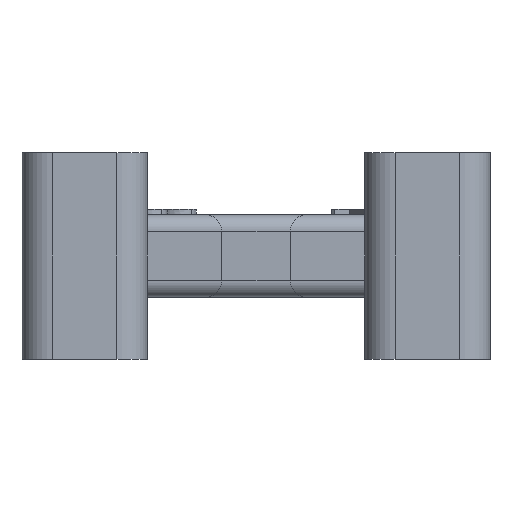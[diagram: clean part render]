
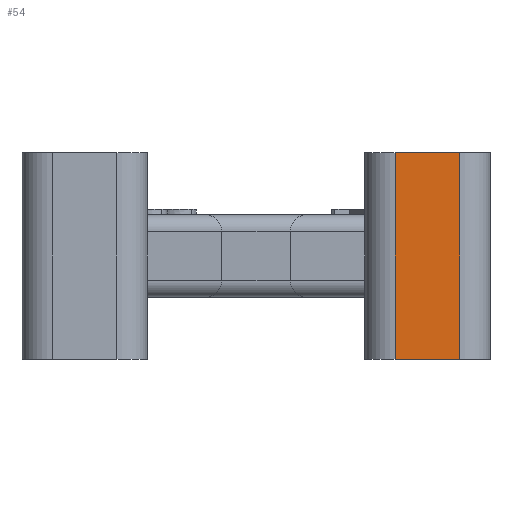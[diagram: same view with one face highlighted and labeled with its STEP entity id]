
A CAD part, front view. The second image highlights one B-rep face of the part: STEP entity #54.
In plain terms, the highlighted planar face has unit normal (0, -1, 0).
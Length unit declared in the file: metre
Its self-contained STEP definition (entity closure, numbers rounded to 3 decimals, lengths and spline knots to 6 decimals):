
#15=CARTESIAN_POINT('',(-0.001576,-0.02168,0.0482));
#16=DIRECTION('',(0.,1.,0.));
#17=DIRECTION('',(0.,0.,1.));
#18=AXIS2_PLACEMENT_3D('',#15,#16,#17);
#19=PLANE('',#18);
#20=CARTESIAN_POINT('',(0.006474,-0.02168,0.04295));
#21=DIRECTION('',(1.,0.,0.));
#22=VECTOR('',#21,1.);
#23=LINE('',#20,#22);
#24=CARTESIAN_POINT('',(0.003474,-0.02168,0.04295));
#25=VERTEX_POINT('',#24);
#26=CARTESIAN_POINT('',(0.005824,-0.02168,0.04295));
#27=VERTEX_POINT('',#26);
#28=EDGE_CURVE('',#25,#27,#23,.T.);
#29=ORIENTED_EDGE('',*,*,#28,.T.);
#30=CARTESIAN_POINT('',(0.005824,-0.02168,0.05045));
#31=DIRECTION('',(0.,0.,-1.));
#32=VECTOR('',#31,1.);
#33=LINE('',#30,#32);
#34=CARTESIAN_POINT('',(0.005824,-0.02168,0.05045));
#35=VERTEX_POINT('',#34);
#36=EDGE_CURVE('',#35,#27,#33,.T.);
#37=ORIENTED_EDGE('',*,*,#36,.F.);
#38=CARTESIAN_POINT('',(0.006474,-0.02168,0.05045));
#39=DIRECTION('',(1.,0.,0.));
#40=VECTOR('',#39,1.);
#41=LINE('',#38,#40);
#42=CARTESIAN_POINT('',(0.003474,-0.02168,0.05045));
#43=VERTEX_POINT('',#42);
#44=EDGE_CURVE('',#43,#35,#41,.T.);
#45=ORIENTED_EDGE('',*,*,#44,.F.);
#46=CARTESIAN_POINT('',(0.003474,-0.02168,0.0482));
#47=DIRECTION('',(0.,0.,-1.));
#48=VECTOR('',#47,1.);
#49=LINE('',#46,#48);
#50=EDGE_CURVE('',#43,#25,#49,.T.);
#51=ORIENTED_EDGE('',*,*,#50,.T.);
#52=EDGE_LOOP('',(#29,#37,#45,#51));
#53=FACE_BOUND('',#52,.T.);
#54=ADVANCED_FACE('',(#53),#19,.F.);
